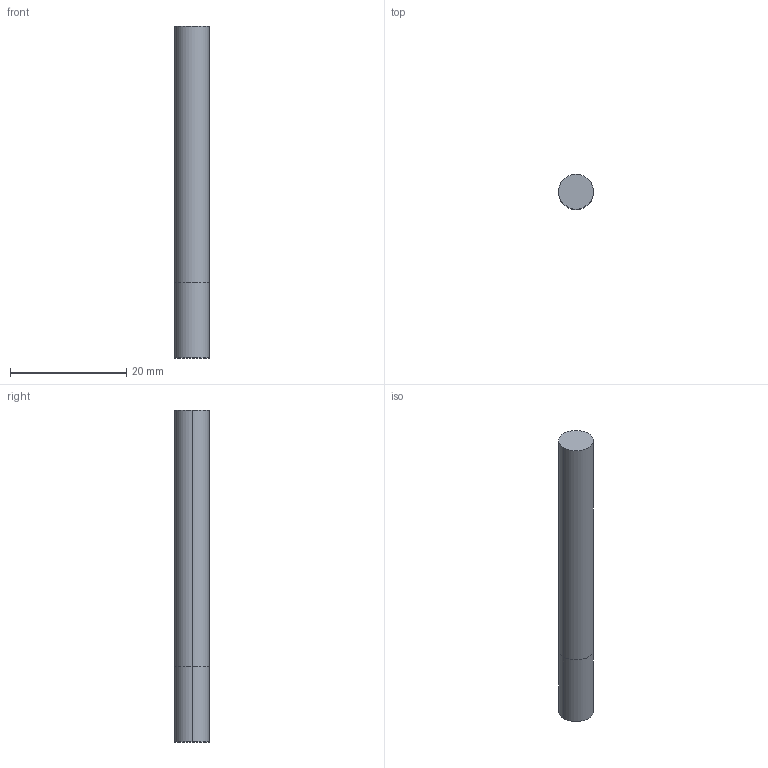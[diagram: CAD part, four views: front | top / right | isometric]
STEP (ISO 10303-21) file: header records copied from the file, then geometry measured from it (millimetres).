
FILE_DESCRIPTION(('STEP AP214'),'1');
FILE_NAME('cctmp_158D6DA0-1396-40A3-8922-C353DEBD49B6_2020_09_30_16_06_29_0994..stp','2020-09-30T14:06:30',('Meusburger Georg GmbH & Co KG'),('CADClick - www.CADClick.com'),'Spatial InterOp 3D',' ','unknown authorization');
FILE_SCHEMA(('AUTOMOTIVE_DESIGN { 1 0 10303 214 1 1 1 1 }'));
Length unit declared in the file: millimetre
Products named in the file (1): WZF13546_6
Bounding box: 6 x 6 x 57.01 mm (x, y, z)
Volume: 1611.9 mm3; surface area: 1130.9 mm2
Topology: 1 solids, 1 shells, 12 faces, 22 edges, 14 vertices
Faces by surface type: cylinder 6, plane 4, cone 2
Entity records: 424 total; most frequent: DIRECTION 62, CARTESIAN_POINT 49, ORIENTED_EDGE 44, AXIS2_PLACEMENT_3D 27, EDGE_CURVE 22, EDGE_LOOP 14, VERTEX_POINT 14, CIRCLE 14
